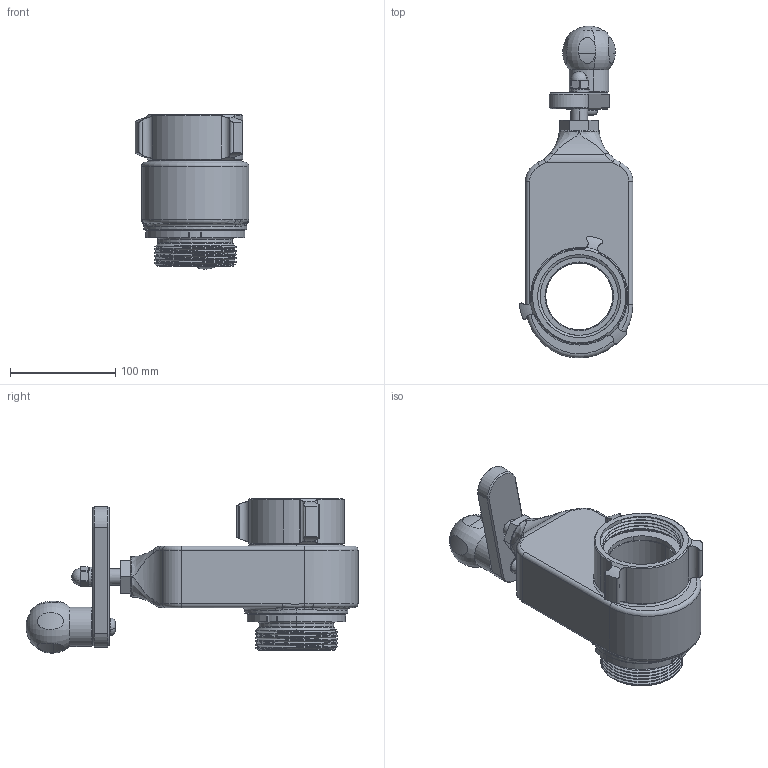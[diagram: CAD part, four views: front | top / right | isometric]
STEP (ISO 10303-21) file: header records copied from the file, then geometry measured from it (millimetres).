
FILE_DESCRIPTION (( 'STEP AP203' ), '1' );
FILE_NAME ('ac5bnj-nj.step', '2014-05-13T18:42:11', ( 'user' ), ( '' ), 'SwSTEP 2.0', 'SolidWorks 2012', '' );
FILE_SCHEMA (( 'CONFIG_CONTROL_DESIGN' ));
Length unit declared in the file: inch
Products named in the file (1): ac5bnj-nj
Bounding box: 107.76 x 314.99 x 146.43 mm (x, y, z)
Surface area: 149779.5 mm2 (no closed solid volume)
Topology: 0 solids, 18 shells, 339 faces, 1306 edges, 962 vertices
Faces by surface type: plane 125, cylinder 122, torus 37, bspline 30, cone 23, sphere 2
Entity records: 20635 total; most frequent: CARTESIAN_POINT 10200, ORIENTED_EDGE 2048, DIRECTION 1978, EDGE_CURVE 1300, VERTEX_POINT 960, LINE 776, VECTOR 776, AXIS2_PLACEMENT_3D 601
